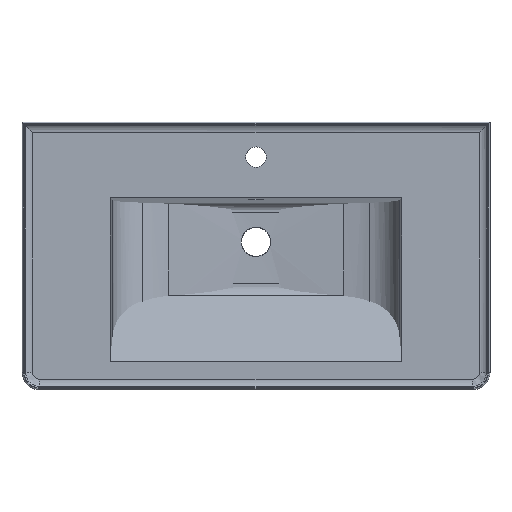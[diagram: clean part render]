
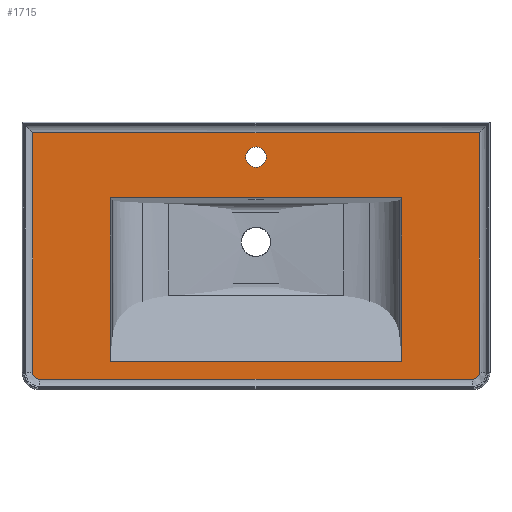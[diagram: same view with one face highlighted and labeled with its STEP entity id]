
A CAD part, top view. The second image highlights one B-rep face of the part: STEP entity #1715.
In plain terms, the highlighted planar face has unit normal (0, 0, 1).
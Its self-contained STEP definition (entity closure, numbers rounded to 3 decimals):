
#1715 = ADVANCED_FACE('',(#1716,#1768,#1788),#1822,.T.);
#1716 = FACE_BOUND('',#1717,.T.);
#1717 = EDGE_LOOP('',(#1718,#1728,#1736,#1744,#1753,#1761));
#1718 = ORIENTED_EDGE('',*,*,#1719,.F.);
#1719 = EDGE_CURVE('',#1720,#1722,#1724,.T.);
#1720 = VERTEX_POINT('',#1721);
#1721 = CARTESIAN_POINT('',(382.918,186.997,
    45.));
#1722 = VERTEX_POINT('',#1723);
#1723 = CARTESIAN_POINT('',(382.918,-223.921,
    45.));
#1724 = LINE('',#1725,#1726);
#1725 = CARTESIAN_POINT('',(382.918,186.997,
    45.));
#1726 = VECTOR('',#1727,1.);
#1727 = DIRECTION('',(0.,-1.,0.));
#1728 = ORIENTED_EDGE('',*,*,#1729,.T.);
#1729 = EDGE_CURVE('',#1720,#1730,#1732,.T.);
#1730 = VERTEX_POINT('',#1731);
#1731 = CARTESIAN_POINT('',(-382.918,186.997,
    45.));
#1732 = LINE('',#1733,#1734);
#1733 = CARTESIAN_POINT('',(-382.918,186.997,
    45.));
#1734 = VECTOR('',#1735,1.);
#1735 = DIRECTION('',(-1.,0.,0.));
#1736 = ORIENTED_EDGE('',*,*,#1737,.F.);
#1737 = EDGE_CURVE('',#1738,#1730,#1740,.T.);
#1738 = VERTEX_POINT('',#1739);
#1739 = CARTESIAN_POINT('',(-382.918,-223.921,
    45.));
#1740 = LINE('',#1741,#1742);
#1741 = CARTESIAN_POINT('',(-382.918,-223.921,
    45.));
#1742 = VECTOR('',#1743,1.);
#1743 = DIRECTION('',(0.,1.,0.));
#1744 = ORIENTED_EDGE('',*,*,#1745,.F.);
#1745 = EDGE_CURVE('',#1746,#1738,#1748,.T.);
#1746 = VERTEX_POINT('',#1747);
#1747 = CARTESIAN_POINT('',(-370.918,-235.921,
    45.));
#1748 = CIRCLE('',#1749,12.);
#1749 = AXIS2_PLACEMENT_3D('',#1750,#1751,#1752);
#1750 = CARTESIAN_POINT('',(-370.918,-223.921,
    45.));
#1751 = DIRECTION('',(0.,0.,-1.));
#1752 = DIRECTION('',(0.,-1.,-0.));
#1753 = ORIENTED_EDGE('',*,*,#1754,.F.);
#1754 = EDGE_CURVE('',#1755,#1746,#1757,.T.);
#1755 = VERTEX_POINT('',#1756);
#1756 = CARTESIAN_POINT('',(370.918,-235.921,
    45.));
#1757 = LINE('',#1758,#1759);
#1758 = CARTESIAN_POINT('',(370.918,-235.921,
    45.));
#1759 = VECTOR('',#1760,1.);
#1760 = DIRECTION('',(-1.,0.,0.));
#1761 = ORIENTED_EDGE('',*,*,#1762,.F.);
#1762 = EDGE_CURVE('',#1722,#1755,#1763,.T.);
#1763 = CIRCLE('',#1764,12.);
#1764 = AXIS2_PLACEMENT_3D('',#1765,#1766,#1767);
#1765 = CARTESIAN_POINT('',(370.918,-223.921,
    45.));
#1766 = DIRECTION('',(0.,0.,-1.));
#1767 = DIRECTION('',(1.,0.,0.));
#1768 = FACE_BOUND('',#1769,.T.);
#1769 = EDGE_LOOP('',(#1770,#1781));
#1770 = ORIENTED_EDGE('',*,*,#1771,.T.);
#1771 = EDGE_CURVE('',#1772,#1774,#1776,.T.);
#1772 = VERTEX_POINT('',#1773);
#1773 = CARTESIAN_POINT('',(17.5,144.997,
    45.));
#1774 = VERTEX_POINT('',#1775);
#1775 = CARTESIAN_POINT('',(-17.5,144.997,
    45.));
#1776 = CIRCLE('',#1777,17.5);
#1777 = AXIS2_PLACEMENT_3D('',#1778,#1779,#1780);
#1778 = CARTESIAN_POINT('',(0.,144.997,
    45.));
#1779 = DIRECTION('',(0.,0.,-1.));
#1780 = DIRECTION('',(1.,0.,0.));
#1781 = ORIENTED_EDGE('',*,*,#1782,.T.);
#1782 = EDGE_CURVE('',#1774,#1772,#1783,.T.);
#1783 = CIRCLE('',#1784,17.5);
#1784 = AXIS2_PLACEMENT_3D('',#1785,#1786,#1787);
#1785 = CARTESIAN_POINT('',(0.,144.997,
    45.));
#1786 = DIRECTION('',(0.,0.,-1.));
#1787 = DIRECTION('',(1.,0.,0.));
#1788 = FACE_BOUND('',#1789,.T.);
#1789 = EDGE_LOOP('',(#1790,#1800,#1808,#1816));
#1790 = ORIENTED_EDGE('',*,*,#1791,.T.);
#1791 = EDGE_CURVE('',#1792,#1794,#1796,.T.);
#1792 = VERTEX_POINT('',#1793);
#1793 = CARTESIAN_POINT('',(249.961,-205.205,
    45.));
#1794 = VERTEX_POINT('',#1795);
#1795 = CARTESIAN_POINT('',(-249.961,-205.205,
    45.));
#1796 = LINE('',#1797,#1798);
#1797 = CARTESIAN_POINT('',(249.961,-205.205,
    45.));
#1798 = VECTOR('',#1799,1.);
#1799 = DIRECTION('',(-1.,0.,0.));
#1800 = ORIENTED_EDGE('',*,*,#1801,.T.);
#1801 = EDGE_CURVE('',#1794,#1802,#1804,.T.);
#1802 = VERTEX_POINT('',#1803);
#1803 = CARTESIAN_POINT('',(-249.961,75.115,
    45.));
#1804 = LINE('',#1805,#1806);
#1805 = CARTESIAN_POINT('',(-249.961,-205.205,
    45.));
#1806 = VECTOR('',#1807,1.);
#1807 = DIRECTION('',(0.,1.,0.));
#1808 = ORIENTED_EDGE('',*,*,#1809,.T.);
#1809 = EDGE_CURVE('',#1802,#1810,#1812,.T.);
#1810 = VERTEX_POINT('',#1811);
#1811 = CARTESIAN_POINT('',(249.961,75.115,
    45.));
#1812 = LINE('',#1813,#1814);
#1813 = CARTESIAN_POINT('',(-249.961,75.115,
    45.));
#1814 = VECTOR('',#1815,1.);
#1815 = DIRECTION('',(1.,0.,0.));
#1816 = ORIENTED_EDGE('',*,*,#1817,.T.);
#1817 = EDGE_CURVE('',#1810,#1792,#1818,.T.);
#1818 = LINE('',#1819,#1820);
#1819 = CARTESIAN_POINT('',(249.961,75.115,
    45.));
#1820 = VECTOR('',#1821,1.);
#1821 = DIRECTION('',(0.,-1.,0.));
#1822 = PLANE('',#1823);
#1823 = AXIS2_PLACEMENT_3D('',#1824,#1825,#1826);
#1824 = CARTESIAN_POINT('',(-375.918,-223.921,
    45.));
#1825 = DIRECTION('',(0.,0.,1.));
#1826 = DIRECTION('',(0.,-1.,0.));
